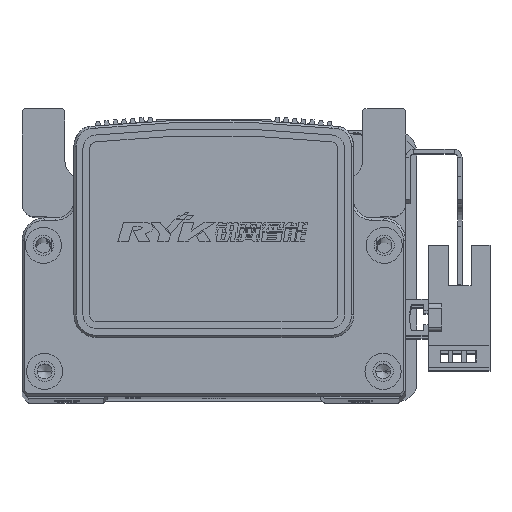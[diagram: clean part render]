
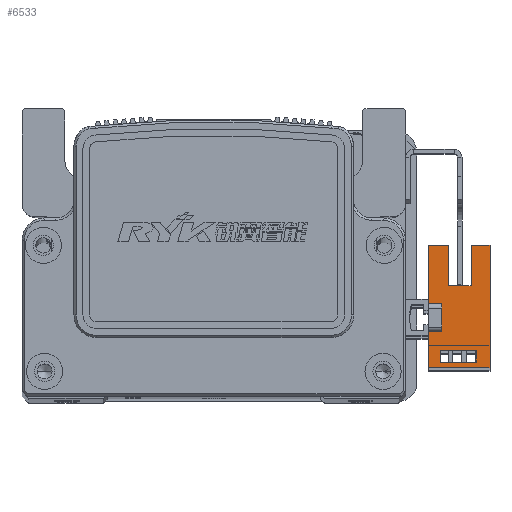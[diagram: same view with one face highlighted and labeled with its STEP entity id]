
A CAD part, top view. The second image highlights one B-rep face of the part: STEP entity #6533.
In plain terms, the highlighted planar face has unit normal (0, 0, 1) as drawn and (1, 0, 0) by its records, which use the part's own axes.
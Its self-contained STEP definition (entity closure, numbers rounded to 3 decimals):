
#1150 = VERTEX_POINT ( 'NONE', #12598 ) ;
#1175 = VERTEX_POINT ( 'NONE', #12641 ) ;
#1180 = VERTEX_POINT ( 'NONE', #12596 ) ;
#1183 = VERTEX_POINT ( 'NONE', #12630 ) ;
#1185 = VERTEX_POINT ( 'NONE', #12627 ) ;
#6533 = ADVANCED_FACE ( 'NONE', ( #28465, #28474 ), #45284, .T. ) ;
#11324 = CARTESIAN_POINT ( 'NONE',  ( 3.2, -3.1, 0. ) ) ;
#11338 = CARTESIAN_POINT ( 'NONE',  ( 3.2, 3.1, 0. ) ) ;
#11343 = CARTESIAN_POINT ( 'NONE',  ( 3.2, 7.1, -1.5 ) ) ;
#11375 = CARTESIAN_POINT ( 'NONE',  ( 3.2, 3.1, 3. ) ) ;
#11382 = CARTESIAN_POINT ( 'NONE',  ( 3.2, 16.1, -1.5 ) ) ;
#11383 = CARTESIAN_POINT ( 'NONE',  ( 3.2, -9.83, 0.3 ) ) ;
#11389 = CARTESIAN_POINT ( 'NONE',  ( 3.2, -7.33, 0.3 ) ) ;
#11394 = CARTESIAN_POINT ( 'NONE',  ( 3.2, -7.33, -7.7 ) ) ;
#11395 = CARTESIAN_POINT ( 'NONE',  ( 3.2, -11.1, -10.7 ) ) ;
#11430 = CARTESIAN_POINT ( 'NONE',  ( 3.2, 7.1, -6.5 ) ) ;
#11439 = CARTESIAN_POINT ( 'NONE',  ( 3.2, -9.83, -7.7 ) ) ;
#12596 = CARTESIAN_POINT ( 'NONE',  ( 3.2, 16.1, -6.5 ) ) ;
#12598 = CARTESIAN_POINT ( 'NONE',  ( 3.2, 16.1, 3. ) ) ;
#12627 = CARTESIAN_POINT ( 'NONE',  ( 3.2, 16.1, -10.7 ) ) ;
#12630 = CARTESIAN_POINT ( 'NONE',  ( 3.2, -11.1, 3. ) ) ;
#12641 = CARTESIAN_POINT ( 'NONE',  ( 3.2, -3.1, 3. ) ) ;
#13176 = DIRECTION ( 'NONE',  ( 1., 0., 0. ) ) ;
#13182 = DIRECTION ( 'NONE',  ( 0., 1., 0. ) ) ;
#19065 = EDGE_LOOP ( 'NONE', ( #48272, #48254, #48212, #48207, #48311, #48291, #48268, #48297, #48241, #48288, #48213, #48282 ) ) ;
#20775 = LINE ( 'NONE', #37975, #20955 ) ;
#20833 = LINE ( 'NONE', #37928, #20843 ) ;
#20843 = VECTOR ( 'NONE', #37938, 1000. ) ;
#20908 = VECTOR ( 'NONE', #38016, 1000. ) ;
#20916 = LINE ( 'NONE', #37989, #20928 ) ;
#20921 = LINE ( 'NONE', #38015, #20908 ) ;
#20926 = LINE ( 'NONE', #37980, #20944 ) ;
#20928 = VECTOR ( 'NONE', #37997, 1000. ) ;
#20944 = VECTOR ( 'NONE', #37977, 1000. ) ;
#20953 = VECTOR ( 'NONE', #38060, 1000. ) ;
#20955 = VECTOR ( 'NONE', #37962, 1000. ) ;
#20977 = LINE ( 'NONE', #38059, #20953 ) ;
#20992 = LINE ( 'NONE', #38070, #20996 ) ;
#20996 = VECTOR ( 'NONE', #38064, 1000. ) ;
#21003 = VECTOR ( 'NONE', #38098, 1000. ) ;
#21008 = VECTOR ( 'NONE', #38047, 1000. ) ;
#21015 = VECTOR ( 'NONE', #38049, 1000. ) ;
#21050 = LINE ( 'NONE', #38057, #21015 ) ;
#21053 = LINE ( 'NONE', #38053, #21008 ) ;
#21061 = VECTOR ( 'NONE', #38088, 1000. ) ;
#21073 = LINE ( 'NONE', #38050, #21090 ) ;
#21081 = LINE ( 'NONE', #38101, #21003 ) ;
#21087 = LINE ( 'NONE', #38091, #21097 ) ;
#21090 = VECTOR ( 'NONE', #38065, 1000. ) ;
#21097 = VECTOR ( 'NONE', #38112, 1000. ) ;
#21103 = LINE ( 'NONE', #38075, #21061 ) ;
#21162 = VECTOR ( 'NONE', #38148, 1000. ) ;
#21191 = LINE ( 'NONE', #38139, #21162 ) ;
#21195 = LINE ( 'NONE', #38138, #21228 ) ;
#21228 = VECTOR ( 'NONE', #38154, 1000. ) ;
#21291 = LINE ( 'NONE', #38236, #21382 ) ;
#21382 = VECTOR ( 'NONE', #38214, 1000. ) ;
#28465 = FACE_OUTER_BOUND ( 'NONE', #19065, .T. ) ;
#28474 = FACE_BOUND ( 'NONE', #39847, .T. ) ;
#33875 = VERTEX_POINT ( 'NONE', #11375 ) ;
#33883 = VERTEX_POINT ( 'NONE', #11324 ) ;
#33889 = VERTEX_POINT ( 'NONE', #11338 ) ;
#33899 = VERTEX_POINT ( 'NONE', #11343 ) ;
#33941 = VERTEX_POINT ( 'NONE', #11389 ) ;
#33980 = VERTEX_POINT ( 'NONE', #11382 ) ;
#34006 = VERTEX_POINT ( 'NONE', #11430 ) ;
#34008 = VERTEX_POINT ( 'NONE', #11394 ) ;
#34024 = VERTEX_POINT ( 'NONE', #11395 ) ;
#34040 = VERTEX_POINT ( 'NONE', #11439 ) ;
#34049 = VERTEX_POINT ( 'NONE', #11383 ) ;
#35775 = AXIS2_PLACEMENT_3D ( 'NONE', #45839, #13176, #13182 ) ;
#37928 = CARTESIAN_POINT ( 'NONE',  ( 3.2, 16.1, 3. ) ) ;
#37938 = DIRECTION ( 'NONE',  ( 0., 1., 0. ) ) ;
#37962 = DIRECTION ( 'NONE',  ( 0., 0., 1. ) ) ;
#37975 = CARTESIAN_POINT ( 'NONE',  ( 3.2, 16.1, -10.7 ) ) ;
#37977 = DIRECTION ( 'NONE',  ( 0., 1., 0. ) ) ;
#37980 = CARTESIAN_POINT ( 'NONE',  ( 3.2, 16.1, 3. ) ) ;
#37989 = CARTESIAN_POINT ( 'NONE',  ( 3.2, 16.1, -10.7 ) ) ;
#37997 = DIRECTION ( 'NONE',  ( 0., 1., 0. ) ) ;
#38015 = CARTESIAN_POINT ( 'NONE',  ( 3.2, -11.1, 3. ) ) ;
#38016 = DIRECTION ( 'NONE',  ( 0., 0., 1. ) ) ;
#38047 = DIRECTION ( 'NONE',  ( 0., 1., 0. ) ) ;
#38049 = DIRECTION ( 'NONE',  ( 0., 0., 1. ) ) ;
#38050 = CARTESIAN_POINT ( 'NONE',  ( 3.2, 16.1, 0.3 ) ) ;
#38053 = CARTESIAN_POINT ( 'NONE',  ( 3.2, 25.1, -1.5 ) ) ;
#38057 = CARTESIAN_POINT ( 'NONE',  ( 3.2, 7.1, -6.5 ) ) ;
#38059 = CARTESIAN_POINT ( 'NONE',  ( 3.2, 16.1, -10.7 ) ) ;
#38060 = DIRECTION ( 'NONE',  ( 0., 0., 1. ) ) ;
#38064 = DIRECTION ( 'NONE',  ( 0., 0., -1. ) ) ;
#38065 = DIRECTION ( 'NONE',  ( 0., -1., 0. ) ) ;
#38070 = CARTESIAN_POINT ( 'NONE',  ( 3.2, -3.1, 3. ) ) ;
#38075 = CARTESIAN_POINT ( 'NONE',  ( 3.2, -9.83, -10.7 ) ) ;
#38088 = DIRECTION ( 'NONE',  ( 0., 0., -1. ) ) ;
#38091 = CARTESIAN_POINT ( 'NONE',  ( 3.2, 0., 0. ) ) ;
#38098 = DIRECTION ( 'NONE',  ( 0., 1., 0. ) ) ;
#38101 = CARTESIAN_POINT ( 'NONE',  ( 3.2, 16.1, -7.7 ) ) ;
#38112 = DIRECTION ( 'NONE',  ( 0., 1., 0. ) ) ;
#38138 = CARTESIAN_POINT ( 'NONE',  ( 3.2, 3.1, 3. ) ) ;
#38139 = CARTESIAN_POINT ( 'NONE',  ( 3.2, 25.1, -6.5 ) ) ;
#38148 = DIRECTION ( 'NONE',  ( 0., -1., 0. ) ) ;
#38154 = DIRECTION ( 'NONE',  ( 0., 0., 1. ) ) ;
#38214 = DIRECTION ( 'NONE',  ( 0., 0., 1. ) ) ;
#38236 = CARTESIAN_POINT ( 'NONE',  ( 3.2, -7.33, -10.7 ) ) ;
#39847 = EDGE_LOOP ( 'NONE', ( #48309, #48277, #48237, #48256 ) ) ;
#42387 = EDGE_CURVE ( 'NONE', #33875, #1150, #20833, .T. ) ;
#42414 = EDGE_CURVE ( 'NONE', #1185, #1180, #20775, .T. ) ;
#42421 = EDGE_CURVE ( 'NONE', #1183, #1175, #20926, .T. ) ;
#42445 = EDGE_CURVE ( 'NONE', #34024, #1183, #20921, .T. ) ;
#42458 = EDGE_CURVE ( 'NONE', #34024, #1185, #20916, .T. ) ;
#42464 = EDGE_CURVE ( 'NONE', #33980, #1150, #20977, .T. ) ;
#42482 = EDGE_CURVE ( 'NONE', #1175, #33883, #20992, .T. ) ;
#42484 = EDGE_CURVE ( 'NONE', #33899, #33980, #21053, .T. ) ;
#42486 = EDGE_CURVE ( 'NONE', #34006, #33899, #21050, .T. ) ;
#42488 = EDGE_CURVE ( 'NONE', #33941, #34049, #21073, .T. ) ;
#42509 = EDGE_CURVE ( 'NONE', #34049, #34040, #21103, .T. ) ;
#42528 = EDGE_CURVE ( 'NONE', #33883, #33889, #21087, .T. ) ;
#42536 = EDGE_CURVE ( 'NONE', #34040, #34008, #21081, .T. ) ;
#42547 = EDGE_CURVE ( 'NONE', #1180, #34006, #21191, .T. ) ;
#42549 = EDGE_CURVE ( 'NONE', #33889, #33875, #21195, .T. ) ;
#42629 = EDGE_CURVE ( 'NONE', #34008, #33941, #21291, .T. ) ;
#45284 = PLANE ( 'NONE',  #35775 ) ;
#45839 = CARTESIAN_POINT ( 'NONE',  ( 3.2, 16.1, -10.7 ) ) ;
#48207 = ORIENTED_EDGE ( 'NONE', *, *, #42464, .T. ) ;
#48212 = ORIENTED_EDGE ( 'NONE', *, *, #42484, .T. ) ;
#48213 = ORIENTED_EDGE ( 'NONE', *, *, #42458, .T. ) ;
#48237 = ORIENTED_EDGE ( 'NONE', *, *, #42536, .F. ) ;
#48241 = ORIENTED_EDGE ( 'NONE', *, *, #42421, .F. ) ;
#48254 = ORIENTED_EDGE ( 'NONE', *, *, #42486, .T. ) ;
#48256 = ORIENTED_EDGE ( 'NONE', *, *, #42509, .F. ) ;
#48268 = ORIENTED_EDGE ( 'NONE', *, *, #42528, .F. ) ;
#48272 = ORIENTED_EDGE ( 'NONE', *, *, #42547, .T. ) ;
#48277 = ORIENTED_EDGE ( 'NONE', *, *, #42629, .F. ) ;
#48282 = ORIENTED_EDGE ( 'NONE', *, *, #42414, .T. ) ;
#48288 = ORIENTED_EDGE ( 'NONE', *, *, #42445, .F. ) ;
#48291 = ORIENTED_EDGE ( 'NONE', *, *, #42549, .F. ) ;
#48297 = ORIENTED_EDGE ( 'NONE', *, *, #42482, .F. ) ;
#48309 = ORIENTED_EDGE ( 'NONE', *, *, #42488, .F. ) ;
#48311 = ORIENTED_EDGE ( 'NONE', *, *, #42387, .F. ) ;
